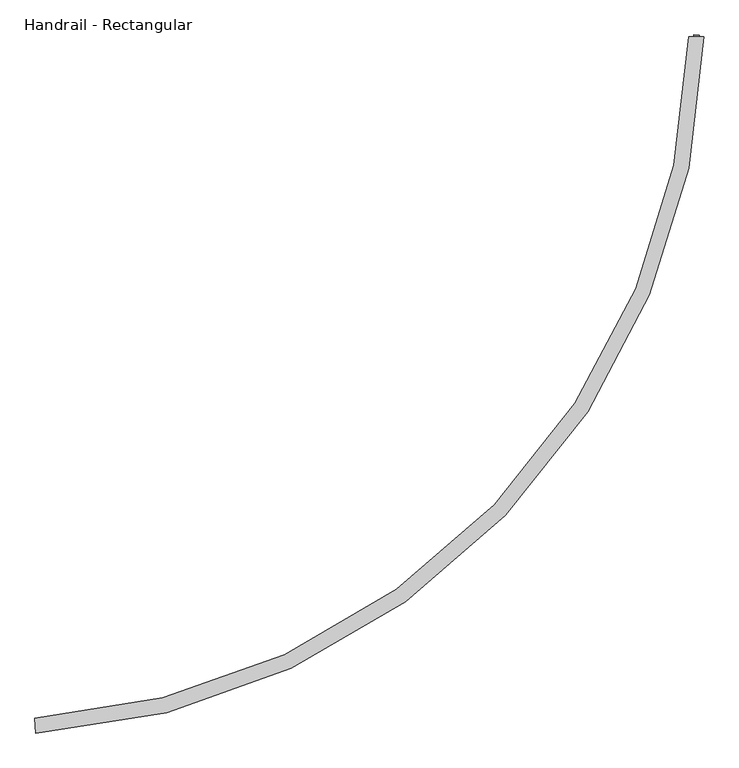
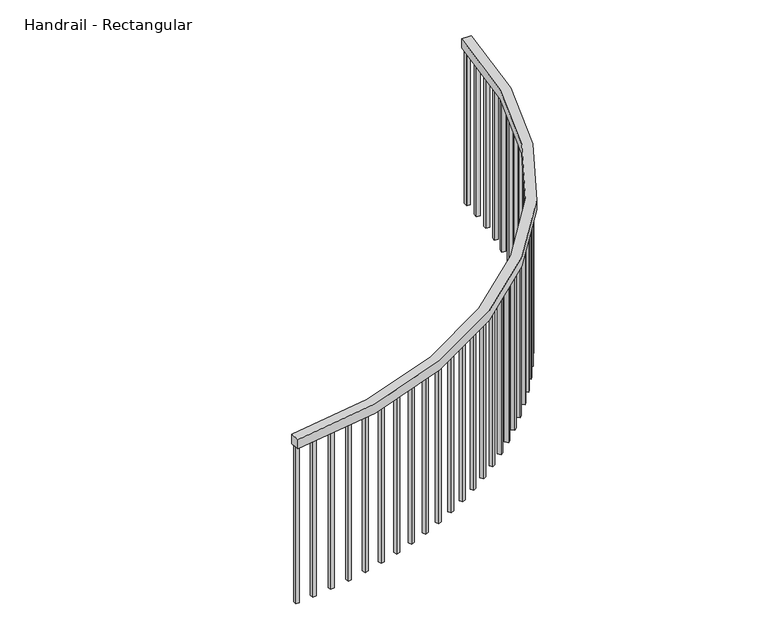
"""IFC4 building model written with IfcOpenShell, lengths in millimetres: railing geometry, Handrail - Rectangular."""

from ifc_helpers import new_model, si_unit, point, frame, frame_2d, origin, place, context, project, spatial, polyline, circle_curve, trimmed, segment, composite_curve, outline, extrude, source, transform, mapped, element, save


def handrail_rectangular_de24de94(model_context):
    return source(origin(), model_context, "Body", "SweptSolid", [
        extrude(outline(composite_curve([segment(trimmed(circle_curve(frame_2d((93109.2164071, 6299.7214262)), 2421.8788274), [point((95530.4901545, 6245.5873823))], [point((93261.7897881, 3882.6532811))], False, "CARTESIAN"), True, "CONTINUOUS"), segment(polyline([(93261.7897881, 3882.6532811), (93258.5894926, 3933.3523749)]), True, "CONTINUOUS"), segment(trimmed(circle_curve(frame_2d((93109.2164071, 6299.7214262)), 2371.0788274), [point((93258.5894926, 3933.3523749))], [point((95479.7028463, 6246.7228683))], True, "CARTESIAN"), True, "CONTINUOUS"), segment(polyline([(95479.7028463, 6246.7228683), (95530.4901545, 6245.5873823)]), True, "CONTINUOUS")], self_intersect=False)), frame((0.0, 0.0, 4216.4), z_axis=(0.0, 0.0, 1.0), x_axis=(1.0, 0.0, 0.0)), (0.0, 0.0, 1.0), 50.8),
        extrude(outline(polyline([(95514.3046069, 6232.6699968), (95495.2600533, 6233.1254949), (95495.7155515, 6252.1700485), (95514.7601051, 6251.7145503), (95514.3046069, 6232.6699968)])), frame((0.0, 0.0, 3352.8), z_axis=(0.0, 0.0, 1.0), x_axis=(1.0, 0.0, 0.0)), (0.0, 0.0, 1.0), 863.6),
        extrude(outline(polyline([(95509.3016706, 6130.7957895), (95490.2935349, 6132.0580406), (95491.555786, 6151.0661763), (95510.5639217, 6149.8039252), (95509.3016706, 6130.7957895)])), frame((0.0, 0.0, 3352.8), z_axis=(0.0, 0.0, 1.0), x_axis=(1.0, 0.0, 0.0)), (0.0, 0.0, 1.0), 863.6),
        extrude(outline(polyline([(95499.9855121, 6029.2251606), (95481.047954, 6031.2918962), (95483.1146896, 6050.2294542), (95502.0522476, 6048.1627187), (95499.9855121, 6029.2251606)])), frame((0.0, 0.0, 3352.8), z_axis=(0.0, 0.0, 1.0), x_axis=(1.0, 0.0, 0.0)), (0.0, 0.0, 1.0), 863.6),
        extrude(outline(polyline([(95486.3728734, 5928.1406438), (95467.5399259, 5931.0081497), (95470.4074318, 5949.8410971), (95489.2403792, 5946.9735913), (95486.3728734, 5928.1406438)])), frame((0.0, 0.0, 3352.8), z_axis=(0.0, 0.0, 1.0), x_axis=(1.0, 0.0, 0.0)), (0.0, 0.0, 1.0), 863.6),
        extrude(outline(polyline([(95468.488218, 5827.7238994), (95449.793726, 5831.3870223), (95453.456849, 5850.0815143), (95472.1513409, 5846.4183913), (95468.488218, 5827.7238994)])), frame((0.0, 0.0, 3352.8), z_axis=(0.0, 0.0, 1.0), x_axis=(1.0, 0.0, 0.0)), (0.0, 0.0, 1.0), 863.6),
        extrude(outline(polyline([(95446.3636866, 5728.1553874), (95427.8412462, 5732.6075444), (95432.2934032, 5751.1299848), (95450.8158436, 5746.6778277), (95446.3636866, 5728.1553874)])), frame((0.0, 0.0, 3352.8), z_axis=(0.0, 0.0, 1.0), x_axis=(1.0, 0.0, 0.0)), (0.0, 0.0, 1.0), 863.6),
        extrude(outline(polyline([(95420.0390396, 5629.6140436), (95401.7219377, 5634.8472336), (95406.9551277, 5653.1643356), (95425.2722296, 5647.9311455), (95420.0390396, 5629.6140436)])), frame((0.0, 0.0, 3352.8), z_axis=(0.0, 0.0, 1.0), x_axis=(1.0, 0.0, 0.0)), (0.0, 0.0, 1.0), 863.6),
        extrude(outline(polyline([(95389.5615852, 5532.276958), (95371.4827396, 5538.2817764), (95377.4875581, 5556.3606219), (95395.5664036, 5550.3558035), (95389.5615852, 5532.276958)])), frame((0.0, 0.0, 3352.8), z_axis=(0.0, 0.0, 1.0), x_axis=(1.0, 0.0, 0.0)), (0.0, 0.0, 1.0), 863.6),
        extrude(outline(polyline([(95354.9860948, 5436.3190561), (95337.1779954, 5443.0847116), (95343.9436509, 5460.892811), (95361.7517503, 5454.1271555), (95354.9860948, 5436.3190561)])), frame((0.0, 0.0, 3352.8), z_axis=(0.0, 0.0, 1.0), x_axis=(1.0, 0.0, 0.0)), (0.0, 0.0, 1.0), 863.6),
        extrude(outline(polyline([(95316.3747045, 5341.9127851), (95298.8693543, 5349.427119), (95306.3836882, 5366.9324692), (95323.8890385, 5359.4181353), (95316.3747045, 5341.9127851)])), frame((0.0, 0.0, 3352.8), z_axis=(0.0, 0.0, 1.0), x_axis=(1.0, 0.0, 0.0)), (0.0, 0.0, 1.0), 863.6),
        extrude(outline(polyline([(95273.7968033, 5249.2278036), (95256.6256614, 5257.4773118), (95264.8751697, 5274.6484537), (95282.0463116, 5266.3989454), (95273.7968033, 5249.2278036)])), frame((0.0, 0.0, 3352.8), z_axis=(0.0, 0.0, 1.0), x_axis=(1.0, 0.0, 0.0)), (0.0, 0.0, 1.0), 863.6),
        extrude(outline(polyline([(95227.3289085, 5158.4306769), (95210.5228334, 5167.4005341), (95219.4926906, 5184.2066092), (95236.2987657, 5175.236752), (95227.3289085, 5158.4306769)])), frame((0.0, 0.0, 3352.8), z_axis=(0.0, 0.0, 1.0), x_axis=(1.0, 0.0, 0.0)), (0.0, 0.0, 1.0), 863.6),
        extrude(outline(polyline([(95177.054528, 5069.6845776), (95160.643722, 5079.3586641), (95170.3178085, 5095.76947), (95186.7286144, 5086.0953835), (95177.054528, 5069.6845776)])), frame((0.0, 0.0, 3352.8), z_axis=(0.0, 0.0, 1.0), x_axis=(1.0, 0.0, 0.0)), (0.0, 0.0, 1.0), 863.6),
        extrude(outline(polyline([(95123.0640105, 4983.1489925), (95107.0779658, 4993.5099227), (95117.4388961, 5009.4959674), (95133.4249407, 4999.1350372), (95123.0640105, 4983.1489925)])), frame((0.0, 0.0, 3352.8), z_axis=(0.0, 0.0, 1.0), x_axis=(1.0, 0.0, 0.0)), (0.0, 0.0, 1.0), 863.6),
        extrude(outline(polyline([(95065.4543831, 4898.9794356), (95049.9218284, 4910.0085899), (95060.9509827, 4925.5411446), (95076.4835374, 4914.5119904), (95065.4543831, 4898.9794356)])), frame((0.0, 0.0, 3352.8), z_axis=(0.0, 0.0, 1.0), x_axis=(1.0, 0.0, 0.0)), (0.0, 0.0, 1.0), 863.6),
        extrude(outline(polyline([(95004.3291768, 4817.3271692), (94989.2780257, 4829.0047268), (95000.9555834, 4844.0558779), (95016.0067344, 4832.3783202), (95004.3291768, 4817.3271692)])), frame((0.0, 0.0, 3352.8), z_axis=(0.0, 0.0, 1.0), x_axis=(1.0, 0.0, 0.0)), (0.0, 0.0, 1.0), 863.6),
        extrude(outline(polyline([(94939.7982403, 4738.3389314), (94925.2555416, 4750.6439066), (94937.5605167, 4765.1866053), (94952.1032155, 4752.8816301), (94939.7982403, 4738.3389314)])), frame((0.0, 0.0, 3352.8), z_axis=(0.0, 0.0, 1.0), x_axis=(1.0, 0.0, 0.0)), (0.0, 0.0, 1.0), 863.6),
        extrude(outline(polyline([(94871.977543, 4662.1566731), (94857.9694315, 4675.0669523), (94870.8797107, 4689.0750639), (94884.8878223, 4676.1647846), (94871.977543, 4662.1566731)])), frame((0.0, 0.0, 3352.8), z_axis=(0.0, 0.0, 1.0), x_axis=(1.0, 0.0, 0.0)), (0.0, 0.0, 1.0), 863.6),
        extrude(outline(polyline([(94800.9889663, 4588.9173022), (94787.5406161, 4602.4096843), (94801.0329982, 4615.8580345), (94814.4813485, 4602.3656524), (94800.9889663, 4588.9173022)])), frame((0.0, 0.0, 3352.8), z_axis=(0.0, 0.0, 1.0), x_axis=(1.0, 0.0, 0.0)), (0.0, 0.0, 1.0), 863.6),
        extrude(outline(polyline([(94726.9600847, 4518.7524381), (94714.0956639, 4532.8026757), (94728.1459016, 4545.6670965), (94741.0103224, 4531.6168588), (94726.9600847, 4518.7524381)])), frame((0.0, 0.0, 3352.8), z_axis=(0.0, 0.0, 1.0), x_axis=(1.0, 0.0, 0.0)), (0.0, 0.0, 1.0), 863.6),
        extrude(outline(polyline([(94650.0239363, 4451.7881749), (94637.7665638, 4466.3710183), (94652.3494072, 4478.6283908), (94664.6067797, 4464.0455474), (94650.0239363, 4451.7881749)])), frame((0.0, 0.0, 3352.8), z_axis=(0.0, 0.0, 1.0), x_axis=(1.0, 0.0, 0.0)), (0.0, 0.0, 1.0), 863.6),
        extrude(outline(polyline([(94570.318784, 4388.1448551), (94558.6904877, 4403.2340971), (94573.7797298, 4414.8623934), (94585.4080261, 4399.7731513), (94570.318784, 4388.1448551)])), frame((0.0, 0.0, 3352.8), z_axis=(0.0, 0.0, 1.0), x_axis=(1.0, 0.0, 0.0)), (0.0, 0.0, 1.0), 863.6),
        extrude(outline(polyline([(94487.9878669, 4327.9368526), (94477.0095442, 4343.5053763), (94492.5780679, 4354.483699), (94503.5563906, 4338.9151753), (94487.9878669, 4327.9368526)])), frame((0.0, 0.0, 3352.8), z_axis=(0.0, 0.0, 1.0), x_axis=(1.0, 0.0, 0.0)), (0.0, 0.0, 1.0), 863.6),
        extrude(outline(polyline([(94403.1791429, 4271.2723681), (94392.870523, 4287.292195), (94408.89035, 4297.6008149), (94419.1989699, 4281.580988), (94403.1791429, 4271.2723681)])), frame((0.0, 0.0, 3352.8), z_axis=(0.0, 0.0, 1.0), x_axis=(1.0, 0.0, 0.0)), (0.0, 0.0, 1.0), 863.6),
        extrude(outline(polyline([(94316.0450228, 4218.253234), (94306.4246315, 4234.6955747), (94322.8669723, 4244.3159661), (94332.4873636, 4227.8736253), (94316.0450228, 4218.253234)])), frame((0.0, 0.0, 3352.8), z_axis=(0.0, 0.0, 1.0), x_axis=(1.0, 0.0, 0.0)), (0.0, 0.0, 1.0), 863.6),
        extrude(outline(polyline([(94226.7420964, 4168.9747315), (94217.8272225, 4185.8100374), (94234.6625284, 4194.7249113), (94243.5774023, 4177.8896054), (94226.7420964, 4168.9747315)])), frame((0.0, 0.0, 3352.8), z_axis=(0.0, 0.0, 1.0), x_axis=(1.0, 0.0, 0.0)), (0.0, 0.0, 1.0), 863.6),
        extrude(outline(polyline([(94135.430851, 4123.5254198), (94127.2375157, 4140.7234359), (94144.4355317, 4148.9167712), (94152.6288671, 4131.7187552), (94135.430851, 4123.5254198)])), frame((0.0, 0.0, 3352.8), z_axis=(0.0, 0.0, 1.0), x_axis=(1.0, 0.0, 0.0)), (0.0, 0.0, 1.0), 863.6),
        extrude(outline(polyline([(94042.2753832, 4081.9869763), (94034.8183107, 4099.5167958), (94052.3481302, 4106.9738683), (94059.8052027, 4089.4440488), (94042.2753832, 4081.9869763)])), frame((0.0, 0.0, 3352.8), z_axis=(0.0, 0.0, 1.0), x_axis=(1.0, 0.0, 0.0)), (0.0, 0.0, 1.0), 863.6),
        extrude(outline(polyline([(93947.4431039, 4044.4340503), (93940.7356954, 4062.2641701), (93958.5658152, 4068.9715785), (93965.2732236, 4051.1414588), (93947.4431039, 4044.4340503)])), frame((0.0, 0.0, 3352.8), z_axis=(0.0, 0.0, 1.0), x_axis=(1.0, 0.0, 0.0)), (0.0, 0.0, 1.0), 863.6),
        extrude(outline(polyline([(93851.1044371, 4010.9341285), (93845.1587467, 4029.0325059), (93863.2571241, 4034.9781964), (93869.2028145, 4016.879819), (93851.1044371, 4010.9341285)])), frame((0.0, 0.0, 3352.8), z_axis=(0.0, 0.0, 1.0), x_axis=(1.0, 0.0, 0.0)), (0.0, 0.0, 1.0), 863.6),
        extrude(outline(polyline([(93753.4325144, 3981.5474141), (93748.259227, 3999.8815244), (93766.5933372, 4005.0548117), (93771.7666246, 3986.7207015), (93753.4325144, 3981.5474141)])), frame((0.0, 0.0, 3352.8), z_axis=(0.0, 0.0, 1.0), x_axis=(1.0, 0.0, 0.0)), (0.0, 0.0, 1.0), 863.6),
        extrude(outline(polyline([(93654.6028631, 3956.3267184), (93650.2112758, 3974.8636129), (93668.7481704, 3979.2552003), (93673.1397577, 3960.7183057), (93654.6028631, 3956.3267184)])), frame((0.0, 0.0, 3352.8), z_axis=(0.0, 0.0, 1.0), x_axis=(1.0, 0.0, 0.0)), (0.0, 0.0, 1.0), 863.6),
        extrude(outline(polyline([(93554.7930912, 3935.3173656), (93551.1910961, 3954.0237317), (93569.8974622, 3957.6257268), (93573.4994573, 3938.9193607), (93554.7930912, 3935.3173656)])), frame((0.0, 0.0, 3352.8), z_axis=(0.0, 0.0, 1.0), x_axis=(1.0, 0.0, 0.0)), (0.0, 0.0, 1.0), 863.6),
        extrude(outline(polyline([(93454.1825681, 3918.5571121), (93451.3766384, 3937.3993322), (93470.2188585, 3940.2052618), (93473.0247882, 3921.3630417), (93454.1825681, 3918.5571121)])), frame((0.0, 0.0, 3352.8), z_axis=(0.0, 0.0, 1.0), x_axis=(1.0, 0.0, 0.0)), (0.0, 0.0, 1.0), 863.6),
        extrude(outline(polyline([(93352.9521021, 3906.0760777), (93350.9472804, 3925.0202903), (93369.891493, 3927.025112), (93371.8963146, 3908.0808994), (93352.9521021, 3906.0760777)])), frame((0.0, 0.0, 3352.8), z_axis=(0.0, 0.0, 1.0), x_axis=(1.0, 0.0, 0.0)), (0.0, 0.0, 1.0), 863.6),
        extrude(outline(polyline([(95514.1356217, 6226.8605041), (95495.092224, 6227.3620046), (95495.5937245, 6246.4054024), (95514.6371223, 6245.9039018), (95514.1356217, 6226.8605041)])), frame((0.0, 0.0, 3352.8), z_axis=(0.0, 0.0, 1.0), x_axis=(1.0, 0.0, 0.0)), (0.0, 0.0, 1.0), 863.6),
        extrude(outline(polyline([(93260.8287161, 3898.4803198), (93259.5530496, 3917.4875599), (93278.5602897, 3918.7632264), (93279.8359562, 3899.7559863), (93260.8287161, 3898.4803198)])), frame((0.0, 0.0, 3352.8), z_axis=(0.0, 0.0, 1.0), x_axis=(1.0, 0.0, 0.0)), (0.0, 0.0, 1.0), 863.6),
    ])


if __name__ == "__main__":
    model = new_model("IFC4")
    model_context = context("Model", 3, world=origin())
    ifc_project = project(units=[si_unit("LENGTHUNIT", "METRE", prefix="MILLI")], contexts=[model_context])
    site = spatial("IfcSite", under=ifc_project)
    building = spatial("IfcBuilding", under=site)
    placement = place(None, origin())
    handrail_rectangular_shape = handrail_rectangular_de24de94(model_context)
    element("IfcRailing", 1, ObjectType="Handrail - Rectangular", at=placement, inside=building, context=model_context, shape_type="MappedRepresentation", body=[
        mapped(handrail_rectangular_shape, transform((0.0, 0.0, 0.0), x_axis=(1.0, 0.0, 0.0), y_axis=(0.0, 1.0, 0.0), z_axis=(0.0, 0.0, 1.0))),
    ])
    save(model, "model.ifc")
